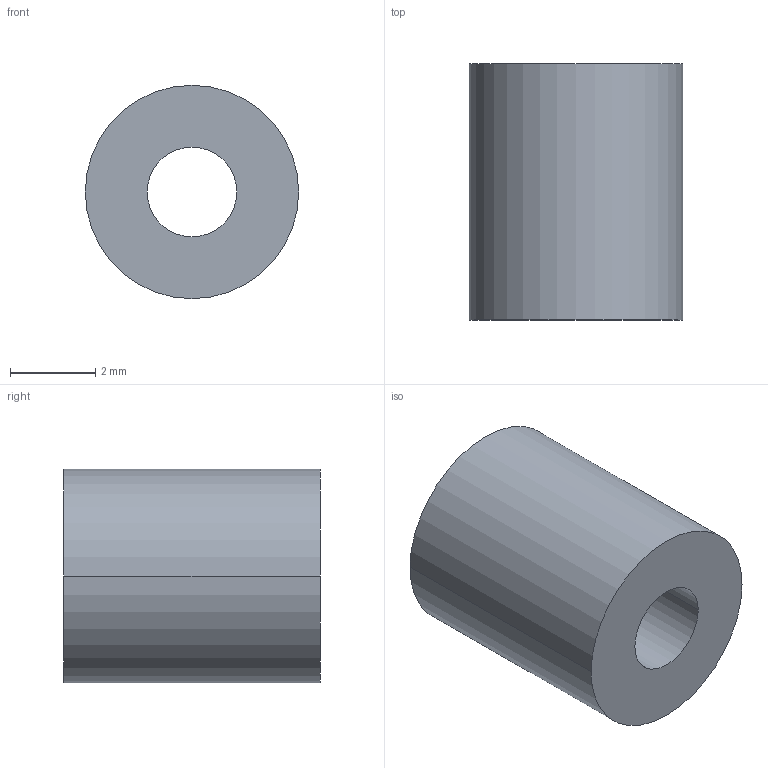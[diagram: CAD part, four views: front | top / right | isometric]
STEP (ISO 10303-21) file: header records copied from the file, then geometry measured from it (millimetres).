
FILE_DESCRIPTION (( 'STEP AP203' ), '1' );
FILE_NAME ('30800.WPP5A2.1.step', '2019-01-23T22:16:16', ( '' ), ( '' ), 'SwSTEP 2.0', 'SolidWorks 2017', '' );
FILE_SCHEMA (( 'CONFIG_CONTROL_DESIGN' ));
Length unit declared in the file: millimetre
Products named in the file (1): 30800.WPP5A2.1
Bounding box: 5 x 6 x 5 mm (x, y, z)
Volume: 95.3 mm3; surface area: 163.8 mm2
Topology: 1 solids, 1 shells, 8 faces, 16 edges, 10 vertices
Faces by surface type: cylinder 4, torus 2, plane 2
Entity records: 297 total; most frequent: DIRECTION 46, CARTESIAN_POINT 35, ORIENTED_EDGE 32, AXIS2_PLACEMENT_3D 21, EDGE_CURVE 16, CIRCLE 12, EDGE_LOOP 10, VERTEX_POINT 10
